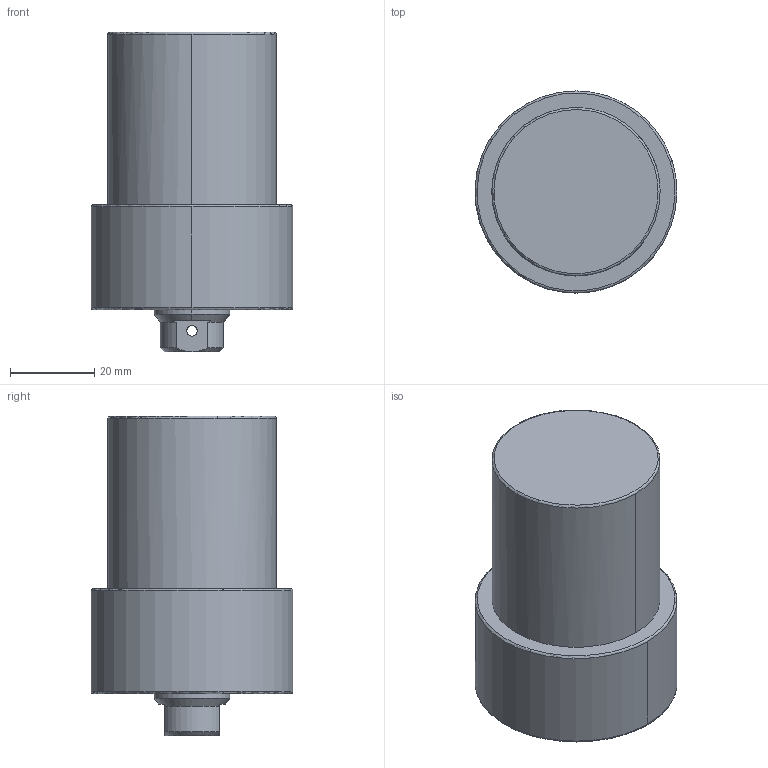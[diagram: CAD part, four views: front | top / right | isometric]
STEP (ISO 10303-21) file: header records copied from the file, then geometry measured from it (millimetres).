
FILE_DESCRIPTION((' '),'2;1');
FILE_NAME( 'TLLU-040GB-030.STEP.stp', '2025-10-24T16:37:11', (' '), ('--- Datakit www.datakit.com---'), ' Datakit CrossCadWare V2024.1 Dec 21 2023', 'Mastercam 2025', ' ');
FILE_SCHEMA(('AUTOMOTIVE_DESIGN { 1 0 10303 214 1 1 1 1 }'));
Length unit declared in the file: millimetre
Products named in the file (1): TLLU-040GB-030
Bounding box: 47.99 x 48 x 76 mm (x, y, z)
Volume: 96743.3 mm3; surface area: 14165 mm2
Topology: 1 solids, 1 shells, 66 faces, 200 edges, 133 vertices
Faces by surface type: cylinder 26, cone 24, plane 10, torus 6
Entity records: 3000 total; most frequent: CARTESIAN_POINT 1126, DIRECTION 428, ORIENTED_EDGE 380, EDGE_CURVE 190, AXIS2_PLACEMENT_3D 187, VERTEX_POINT 133, CIRCLE 120, EDGE_LOOP 77
